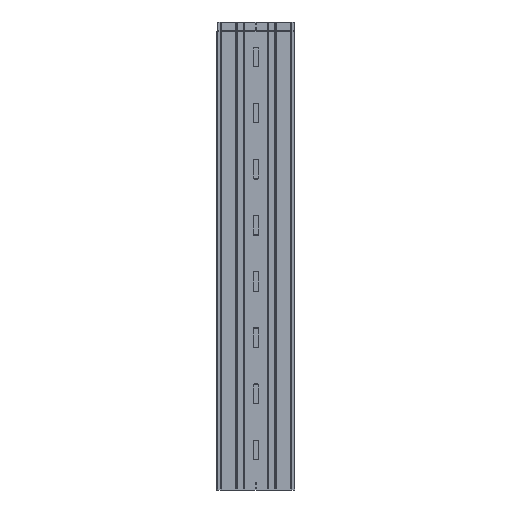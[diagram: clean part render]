
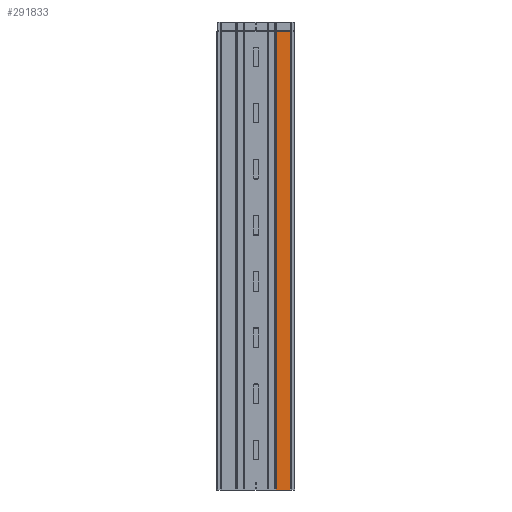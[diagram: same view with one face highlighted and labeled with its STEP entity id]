
A CAD part, front view. The second image highlights one B-rep face of the part: STEP entity #291833.
In plain terms, the highlighted planar face has unit normal (0, -1, 0).
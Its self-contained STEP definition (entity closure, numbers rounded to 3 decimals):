
#16101 = CARTESIAN_POINT ( 'NONE',  ( 129.456, 0., 0. ) ) ;
#21376 = B_SPLINE_CURVE_WITH_KNOTS ( 'NONE', 3,
 ( #105754, #314471, #136468, #85172, #81782, #57786 ),
 .UNSPECIFIED., .F., .F.,
 ( 4, 2, 4 ),
 ( 0., 0.5, 1. ),
 .UNSPECIFIED. ) ;
#27719 = LINE ( 'NONE', #337415, #276368 ) ;
#29050 = AXIS2_PLACEMENT_3D ( 'NONE', #32618, #241330, #243036 ) ;
#32618 = CARTESIAN_POINT ( 'NONE',  ( 129.456, 0., -2941.5 ) ) ;
#35114 = VECTOR ( 'NONE', #70359, 1000. ) ;
#51408 = EDGE_CURVE ( 'NONE', #297607, #141580, #27719, .T. ) ;
#57786 = CARTESIAN_POINT ( 'NONE',  ( 220.544, 0., 0. ) ) ;
#63813 = EDGE_LOOP ( 'NONE', ( #231772, #147581, #194141, #72523 ) ) ;
#63992 = EDGE_CURVE ( 'NONE', #297607, #338074, #320538, .T. ) ;
#70359 = DIRECTION ( 'NONE',  ( 0., 0., 1. ) ) ;
#72523 = ORIENTED_EDGE ( 'NONE', *, *, #141015, .T. ) ;
#81782 = CARTESIAN_POINT ( 'NONE',  ( 205.363, 0., 0. ) ) ;
#85172 = CARTESIAN_POINT ( 'NONE',  ( 190.181, 0., 0. ) ) ;
#105754 = CARTESIAN_POINT ( 'NONE',  ( 129.456, 0., 0. ) ) ;
#109449 = CARTESIAN_POINT ( 'NONE',  ( 129.456, 0., -2941.5 ) ) ;
#112474 = EDGE_CURVE ( 'NONE', #141580, #268932, #21376, .T. ) ;
#132070 = DIRECTION ( 'NONE',  ( 0., 0., 1. ) ) ;
#136468 = CARTESIAN_POINT ( 'NONE',  ( 159.819, 0., 0. ) ) ;
#141015 = EDGE_CURVE ( 'NONE', #338074, #268932, #282417, .T. ) ;
#141580 = VERTEX_POINT ( 'NONE', #16101 ) ;
#147581 = ORIENTED_EDGE ( 'NONE', *, *, #51408, .F. ) ;
#164330 = PLANE ( 'NONE',  #29050 ) ;
#193924 = DIRECTION ( 'NONE',  ( 1., 0., 0. ) ) ;
#194141 = ORIENTED_EDGE ( 'NONE', *, *, #63992, .T. ) ;
#219045 = FACE_OUTER_BOUND ( 'NONE', #63813, .T. ) ;
#231772 = ORIENTED_EDGE ( 'NONE', *, *, #112474, .F. ) ;
#241330 = DIRECTION ( 'NONE',  ( 0., -1., 0. ) ) ;
#243036 = DIRECTION ( 'NONE',  ( 1., 0., 0. ) ) ;
#256738 = CARTESIAN_POINT ( 'NONE',  ( 220.544, 0., -2941.5 ) ) ;
#268932 = VERTEX_POINT ( 'NONE', #292570 ) ;
#274918 = CARTESIAN_POINT ( 'NONE',  ( 220.544, 0., -2941.5 ) ) ;
#276368 = VECTOR ( 'NONE', #132070, 1000. ) ;
#282417 = LINE ( 'NONE', #256738, #35114 ) ;
#285203 = VECTOR ( 'NONE', #193924, 1000. ) ;
#291833 = ADVANCED_FACE ( 'NONE', ( #219045 ), #164330, .T. ) ;
#292570 = CARTESIAN_POINT ( 'NONE',  ( 220.544, 0., 0. ) ) ;
#296554 = CARTESIAN_POINT ( 'NONE',  ( 129.456, 0., -2941.5 ) ) ;
#297607 = VERTEX_POINT ( 'NONE', #109449 ) ;
#314471 = CARTESIAN_POINT ( 'NONE',  ( 144.637, 0., 0. ) ) ;
#320538 = LINE ( 'NONE', #296554, #285203 ) ;
#337415 = CARTESIAN_POINT ( 'NONE',  ( 129.456, 0., -2941.5 ) ) ;
#338074 = VERTEX_POINT ( 'NONE', #274918 ) ;
